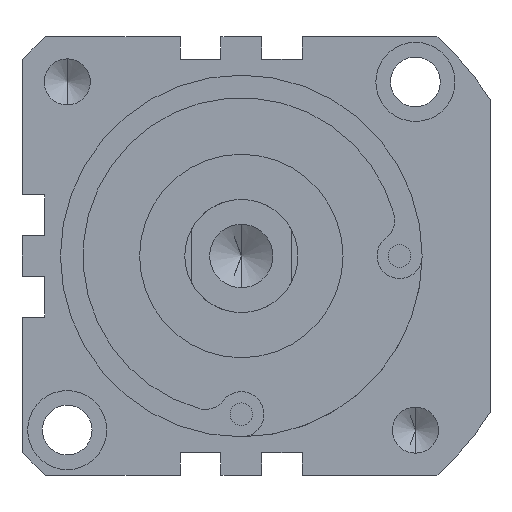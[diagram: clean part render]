
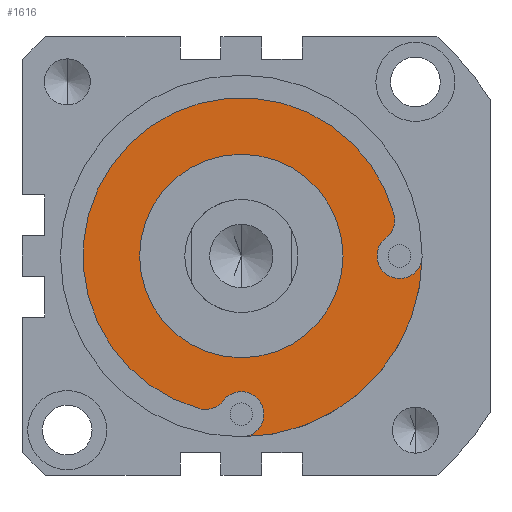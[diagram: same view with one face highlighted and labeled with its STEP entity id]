
A CAD part, front view. The second image highlights one B-rep face of the part: STEP entity #1616.
In plain terms, the highlighted planar face has unit normal (0, -1, 0).
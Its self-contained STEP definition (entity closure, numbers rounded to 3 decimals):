
#29 = DIRECTION ( 'NONE',  ( 0., 0., 1. ) ) ;
#39 = CIRCLE ( 'NONE', #154, 22.5 ) ;
#76 = AXIS2_PLACEMENT_3D ( 'NONE', #2530, #1564, #2824 ) ;
#116 = CARTESIAN_POINT ( 'NONE',  ( 35., -71.5, -5. ) ) ;
#140 = DIRECTION ( 'NONE',  ( 0., 0., -1. ) ) ;
#154 = AXIS2_PLACEMENT_3D ( 'NONE', #1974, #1045, #29 ) ;
#207 = ORIENTED_EDGE ( 'NONE', *, *, #1608, .T. ) ;
#233 = DIRECTION ( 'NONE',  ( 0., -1., 0. ) ) ;
#307 = CARTESIAN_POINT ( 'NONE',  ( 0., -71.5, 0. ) ) ;
#366 = ORIENTED_EDGE ( 'NONE', *, *, #1911, .T. ) ;
#406 = DIRECTION ( 'NONE',  ( 0., 0., 1. ) ) ;
#509 = EDGE_CURVE ( 'NONE', #3738, #1618, #39, .T. ) ;
#534 = VERTEX_POINT ( 'NONE', #3614 ) ;
#547 = DIRECTION ( 'NONE',  ( 0., 0., 1. ) ) ;
#561 = DIRECTION ( 'NONE',  ( 0., 1., 0. ) ) ;
#562 = EDGE_CURVE ( 'NONE', #1611, #534, #2776, .T. ) ;
#615 = CARTESIAN_POINT ( 'NONE',  ( 0., -71.5, -22.5 ) ) ;
#703 = AXIS2_PLACEMENT_3D ( 'NONE', #1541, #561, #547 ) ;
#710 = ORIENTED_EDGE ( 'NONE', *, *, #562, .F. ) ;
#1027 = CARTESIAN_POINT ( 'NONE',  ( -7.946, -71.5, -28.929 ) ) ;
#1045 = DIRECTION ( 'NONE',  ( 0., 1., 0. ) ) ;
#1056 = VERTEX_POINT ( 'NONE', #2339 ) ;
#1087 = CARTESIAN_POINT ( 'NONE',  ( 31.964, -71.5, 3.973 ) ) ;
#1148 = EDGE_CURVE ( 'NONE', #1156, #3763, #3023, .T. ) ;
#1156 = VERTEX_POINT ( 'NONE', #116 ) ;
#1183 = CIRCLE ( 'NONE', #76, 5. ) ;
#1196 = DIRECTION ( 'NONE',  ( 0., 0., 1. ) ) ;
#1223 = CARTESIAN_POINT ( 'NONE',  ( 0., -71.5, 0. ) ) ;
#1401 = AXIS2_PLACEMENT_3D ( 'NONE', #3671, #2003, #4005 ) ;
#1418 = CARTESIAN_POINT ( 'NONE',  ( 0., -71.5, 22.5 ) ) ;
#1457 = AXIS2_PLACEMENT_3D ( 'NONE', #3462, #2123, #140 ) ;
#1541 = CARTESIAN_POINT ( 'NONE',  ( 35., -71.5, 0. ) ) ;
#1564 = DIRECTION ( 'NONE',  ( 0., 1., 0. ) ) ;
#1581 = CARTESIAN_POINT ( 'NONE',  ( -7.946, -71.5, -33.929 ) ) ;
#1608 = EDGE_CURVE ( 'NONE', #3436, #534, #1183, .T. ) ;
#1611 = VERTEX_POINT ( 'NONE', #3824 ) ;
#1616 = ADVANCED_FACE ( 'NONE', ( #3698, #2465 ), #3152, .T. ) ;
#1618 = VERTEX_POINT ( 'NONE', #615 ) ;
#1628 = ORIENTED_EDGE ( 'NONE', *, *, #2526, .F. ) ;
#1716 = VERTEX_POINT ( 'NONE', #2598 ) ;
#1725 = CIRCLE ( 'NONE', #2860, 22.5 ) ;
#1819 = ORIENTED_EDGE ( 'NONE', *, *, #1148, .T. ) ;
#1896 = CIRCLE ( 'NONE', #2152, 5. ) ;
#1911 = EDGE_CURVE ( 'NONE', #3763, #1716, #4118, .T. ) ;
#1974 = CARTESIAN_POINT ( 'NONE',  ( 0., -71.5, 0. ) ) ;
#1980 = AXIS2_PLACEMENT_3D ( 'NONE', #2753, #2067, #2372 ) ;
#2003 = DIRECTION ( 'NONE',  ( 0., -1., 0. ) ) ;
#2067 = DIRECTION ( 'NONE',  ( 0., 1., 0. ) ) ;
#2101 = DIRECTION ( 'NONE',  ( 0., 0., 1. ) ) ;
#2121 = AXIS2_PLACEMENT_3D ( 'NONE', #4093, #2125, #2101 ) ;
#2123 = DIRECTION ( 'NONE',  ( 0., -1., 0. ) ) ;
#2125 = DIRECTION ( 'NONE',  ( 0., 1., 0. ) ) ;
#2152 = AXIS2_PLACEMENT_3D ( 'NONE', #1027, #2962, #3631 ) ;
#2234 = AXIS2_PLACEMENT_3D ( 'NONE', #307, #2871, #2574 ) ;
#2339 = CARTESIAN_POINT ( 'NONE',  ( -9.27, -71.5, -33.75 ) ) ;
#2372 = DIRECTION ( 'NONE',  ( 0., 0., 1. ) ) ;
#2402 = ORIENTED_EDGE ( 'NONE', *, *, #4180, .T. ) ;
#2460 = ORIENTED_EDGE ( 'NONE', *, *, #509, .T. ) ;
#2465 = FACE_BOUND ( 'NONE', #2734, .T. ) ;
#2505 = ORIENTED_EDGE ( 'NONE', *, *, #2600, .T. ) ;
#2514 = CIRCLE ( 'NONE', #2234, 35. ) ;
#2526 = EDGE_CURVE ( 'NONE', #1056, #1716, #2514, .T. ) ;
#2530 = CARTESIAN_POINT ( 'NONE',  ( 0., -71.5, -35. ) ) ;
#2545 = VERTEX_POINT ( 'NONE', #1581 ) ;
#2574 = DIRECTION ( 'NONE',  ( 0., 0., 1. ) ) ;
#2598 = CARTESIAN_POINT ( 'NONE',  ( 33.75, -71.5, 9.27 ) ) ;
#2600 = EDGE_CURVE ( 'NONE', #1056, #2545, #1896, .T. ) ;
#2718 = DIRECTION ( 'NONE',  ( 0., 1., 0. ) ) ;
#2734 = EDGE_LOOP ( 'NONE', ( #2402, #2460 ) ) ;
#2753 = CARTESIAN_POINT ( 'NONE',  ( 0., -71.5, 0. ) ) ;
#2776 = CIRCLE ( 'NONE', #1980, 40. ) ;
#2824 = DIRECTION ( 'NONE',  ( 0., 0., 1. ) ) ;
#2860 = AXIS2_PLACEMENT_3D ( 'NONE', #2943, #2718, #406 ) ;
#2871 = DIRECTION ( 'NONE',  ( 0., 1., 0. ) ) ;
#2943 = CARTESIAN_POINT ( 'NONE',  ( 0., -71.5, 0. ) ) ;
#2954 = ORIENTED_EDGE ( 'NONE', *, *, #3261, .T. ) ;
#2962 = DIRECTION ( 'NONE',  ( 0., -1., 0. ) ) ;
#2999 = EDGE_LOOP ( 'NONE', ( #3716, #1819, #366, #1628, #2505, #2954, #207, #710 ) ) ;
#3023 = CIRCLE ( 'NONE', #2121, 5. ) ;
#3152 = PLANE ( 'NONE',  #3221 ) ;
#3221 = AXIS2_PLACEMENT_3D ( 'NONE', #1223, #233, #1196 ) ;
#3261 = EDGE_CURVE ( 'NONE', #2545, #3436, #3495, .T. ) ;
#3385 = EDGE_CURVE ( 'NONE', #1611, #1156, #4163, .T. ) ;
#3436 = VERTEX_POINT ( 'NONE', #3532 ) ;
#3462 = CARTESIAN_POINT ( 'NONE',  ( -7.946, -71.5, -28.929 ) ) ;
#3495 = CIRCLE ( 'NONE', #1457, 5. ) ;
#3532 = CARTESIAN_POINT ( 'NONE',  ( -3.973, -71.5, -31.964 ) ) ;
#3614 = CARTESIAN_POINT ( 'NONE',  ( 0., -71.5, -40. ) ) ;
#3631 = DIRECTION ( 'NONE',  ( 0., 0., -1. ) ) ;
#3671 = CARTESIAN_POINT ( 'NONE',  ( 28.929, -71.5, 7.946 ) ) ;
#3698 = FACE_OUTER_BOUND ( 'NONE', #2999, .T. ) ;
#3716 = ORIENTED_EDGE ( 'NONE', *, *, #3385, .T. ) ;
#3738 = VERTEX_POINT ( 'NONE', #1418 ) ;
#3763 = VERTEX_POINT ( 'NONE', #1087 ) ;
#3824 = CARTESIAN_POINT ( 'NONE',  ( 40., -71.5, 0. ) ) ;
#4005 = DIRECTION ( 'NONE',  ( 0., 0., -1. ) ) ;
#4093 = CARTESIAN_POINT ( 'NONE',  ( 35., -71.5, 0. ) ) ;
#4118 = CIRCLE ( 'NONE', #1401, 5. ) ;
#4163 = CIRCLE ( 'NONE', #703, 5. ) ;
#4180 = EDGE_CURVE ( 'NONE', #1618, #3738, #1725, .T. ) ;
